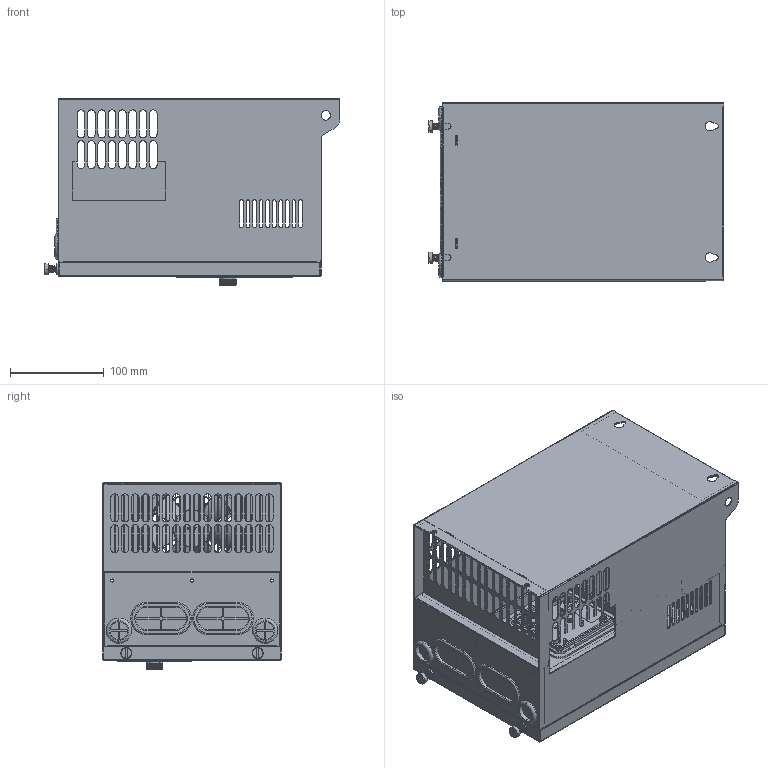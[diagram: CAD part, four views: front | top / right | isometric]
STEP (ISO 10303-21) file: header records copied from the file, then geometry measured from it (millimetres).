
FILE_DESCRIPTION((''),'2;1');
FILE_NAME('7R5-15KW_3D_ASM_17_ASM_1_ASM_1__ASM','2022-07-18T',('Administrator'),(''),'PRO/ENGINEER BY PARAMETRIC TECHNOLOGY CORPORATION, 2010280','PRO/ENGINEER BY PARAMETRIC TECHNOLOGY CORPORATION, 2010280','');
FILE_SCHEMA(('AUTOMOTIVE_DESIGN_CC2 { 1 2 10303 214 -1 1 5 2 }'));
Products named in the file (56): MANIFOLD_SOLID_BREP_19771_1_AF0; 5G3GI3F001_15_ASM_1_ASM_1_AF0_A_ASM; MANIFOLD_SOLID_BREP_23789_1_1_1; MANIFOLD_SOLID_BREP_24046_1_1_1; _5G3GI3F002_6_1_1_1_1; 5G3GI3F002_6_ASM_1_ASM_1_ASM_1__ASM; MANIFOLD_SOLID_BREP_33666_1_AF0; MANIFOLD_SOLID_BREP_33923_1_1_1; MANIFOLD_SOLID_BREP_34180_1_1_1; 5G3GI3F003_6_ASM_1_ASM_1_AF0_AS_ASM; MANIFOLD_SOLID_BREP_38713_1; MANIFOLD_SOLID_BREP_39066_1; MANIFOLD_SOLID_BREP_44142_1_AF0_ASM; 5G3GI3F004_36_ASM_1_ASM_1_AF0_A_ASM; 5G3GI2F001_ASM_17_ASM_1_ASM_AF0_ASM; MANIFOLD_SOLID_BREP_53458_1_1_1; MANIFOLD_SOLID_BREP_53660_1_1_1; MANIFOLD_SOLID_BREP_53862_1_1_1; _5G3GI3F005_8_1_1_1_1; 5G3GI3F005_8_ASM_1_ASM_1_ASM_1__ASM; 5G3GI3F010_7_1_1_1_1; YDS_A1_M4-16_2_1_1_1_1; 5G3GI3F010_ASM_15_ASM_1_ASM_1_A_ASM; 5G3GI1F001_ASM_44_ASM_1_ASM_AF0_ASM; MANIFOLD_SOLID_BREP_71383_1_1_1; MANIFOLD_SOLID_BREP_77921_1_1_1; MANIFOLD_SOLID_BREP_78023_1_1_1; MANIFOLD_SOLID_BREP_78125_1_1_1; _FAN_0924HB_2_1_1_1_1; FAN_0924HB_2_ASM_1_ASM_1_ASM_1__ASM; 5G3AZ3S002_3_1_1_1_AF0_1; 5G3AZ3S005_5_1_1_1_1; 5G3AZ3S004B_2_1_1_1_1; KEY_PI500_ASM_2_ASM_1_ASM_1_AF0_ASM; MANIFOLD_SOLID_BREP_130327; MANIFOLD_SOLID_BREP_130625; MANIFOLD_SOLID_BREP_130923; MANIFOLD_SOLID_BREP_131188; MANIFOLD_SOLID_BREP_131453; _5G3AZ3S001_2_1_1_1_AF0_1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
Assembly tree (58 placements, depth 6):
  7R5-15KW_3D_ASM_17_ASM_1_ASM_1__ASM
    5G3GI1F001_ASM_44_ASM_1_ASM_AF0_ASM
      5G3GI2F001_ASM_17_ASM_1_ASM_AF0_ASM
        5G3GI3F001_15_ASM_1_ASM_1_AF0_A_ASM
          MANIFOLD_SOLID_BREP_19771_1_AF0
        5G3GI3F002_6_ASM_1_ASM_1_ASM_1__ASM
          MANIFOLD_SOLID_BREP_23789_1_1_1
          MANIFOLD_SOLID_BREP_24046_1_1_1
          _5G3GI3F002_6_1_1_1_1
        5G3GI3F003_6_ASM_1_ASM_1_AF0_AS_ASM
          MANIFOLD_SOLID_BREP_33666_1_AF0
          MANIFOLD_SOLID_BREP_33923_1_1_1
          MANIFOLD_SOLID_BREP_34180_1_1_1
        5G3GI3F004_36_ASM_1_ASM_1_AF0_A_ASM
          MANIFOLD_SOLID_BREP_44142_1_AF0_ASM
            MANIFOLD_SOLID_BREP_38713_1
            MANIFOLD_SOLID_BREP_39066_1
      5G3GI3F005_8_ASM_1_ASM_1_ASM_1__ASM
        MANIFOLD_SOLID_BREP_53458_1_1_1
        MANIFOLD_SOLID_BREP_53660_1_1_1
        MANIFOLD_SOLID_BREP_53862_1_1_1
        _5G3GI3F005_8_1_1_1_1
      5G3GI3F010_ASM_15_ASM_1_ASM_1_A_ASM
        5G3GI3F010_7_1_1_1_1
        YDS_A1_M4-16_2_1_1_1_1  x2
    FAN_0924HB_2_ASM_1_ASM_1_ASM_1__ASM
      MANIFOLD_SOLID_BREP_71383_1_1_1
      MANIFOLD_SOLID_BREP_77921_1_1_1
      MANIFOLD_SOLID_BREP_78023_1_1_1
      MANIFOLD_SOLID_BREP_78125_1_1_1
      _FAN_0924HB_2_1_1_1_1
    PI500_KEY_NEW_ASM_2_ASM_1_ASM_1_ASM
      KEY_PI500_ASM_2_ASM_1_ASM_1_AF0_ASM
        5G3AZ3S002_3_1_1_1_AF0_1
        5G3AZ3S005_5_1_1_1_1
        5G3AZ3S004B_2_1_1_1_1
      5G3AZ3S001_2_1_1_1_AF0_1_ASM
        MANIFOLD_SOLID_BREP_130327
        MANIFOLD_SOLID_BREP_130625
        MANIFOLD_SOLID_BREP_130923
        MANIFOLD_SOLID_BREP_131188
        MANIFOLD_SOLID_BREP_131453
        _5G3AZ3S001_2_1_1_1_AF0_1
    BUS_65-35-9_21_1_1_1_1  x2
    BUS_D26-19_2_1_1_1_1  x2
    NETF_D90_2_ASM_1_ASM_1_ASM_1_AS_ASM
      MANIFOLD_SOLID_BREP_161790_1_1_
      MANIFOLD_SOLID_BREP_161896_1_1_
      MANIFOLD_SOLID_BREP_162702_1_1_
      MANIFOLD_SOLID_BREP_163508_1_1_
      MANIFOLD_SOLID_BREP_163614_1_1_
      MANIFOLD_SOLID_BREP_163720_1_1_
      MANIFOLD_SOLID_BREP_163826_1_1_
      MANIFOLD_SOLID_BREP_163932_1_1_
    15-75KW_LOGO_1_1_1_1
    5G3GI3R001_6_1_1
Bounding box: 315.4 x 190 x 199.4 mm (x, y, z)
Volume: 788189.7 mm3; surface area: 1253164.2 mm2
Topology: 40 solids, 86 shells, 3484 faces, 12090 edges, 9364 vertices
Faces by surface type: plane 2080, cylinder 975, torus 141, bspline 111, extrusion 83, cone 70, sphere 24
Entity records: 159073 total; most frequent: CARTESIAN_POINT 35624, ORIENTED_EDGE 20390, DIRECTION 19460, EDGE_CURVE 11083, VECTOR 8082, LINE 7999, VERTEX_POINT 7907, AXIS2_PLACEMENT_3D 5689
